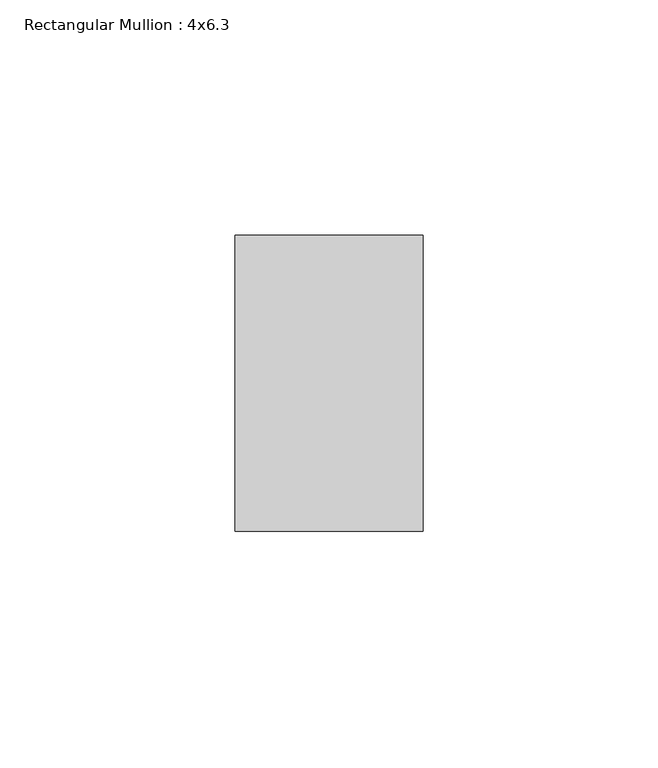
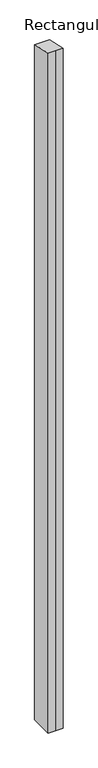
"""IFC4 building model written with IfcOpenShell, lengths in millimetres: member geometry, Rectangular Mullion : 4x6.3."""

from ifc_helpers import new_model, si_unit, origin, place, context, project, spatial, faceted_brep, source, transform, mapped, element, save


def rectangular_mullion_4x6_3_606ac226(model_context):
    return source(origin(), model_context, "Body", "Brep", [
        faceted_brep([(-20.0, 20.0, -1948.525656), (-20.0, 83.0, -1948.525656), (20.0, 83.0, -1948.525656), (20.0, 20.0, -1948.525656), (0.0, 20.0, -1948.525656), (0.0, 20.0, -4.3995804), (-20.0, 20.0, -4.3995804), (20.0, 20.0, -4.3995804), (20.0, 83.0, -18.2582585), (-20.0, 83.0, -18.2582585)], [[[0, 1, 2, 3, 4]], [[5, 6, 0, 4]], [[7, 5, 4, 3]], [[8, 7, 3, 2]], [[9, 8, 2, 1]], [[6, 9, 1, 0]], [[6, 5, 7, 8, 9]]]),
    ])


if __name__ == "__main__":
    model = new_model("IFC4")
    model_context = context("Model", 3, world=origin())
    ifc_project = project(units=[si_unit("LENGTHUNIT", "METRE", prefix="MILLI")], contexts=[model_context])
    site = spatial("IfcSite", under=ifc_project)
    building = spatial("IfcBuilding", under=site)
    placement = place(None, origin())
    rectangular_mullion_4x6_3_shape = rectangular_mullion_4x6_3_606ac226(model_context)
    element("IfcMember", 1, ObjectType="Rectangular Mullion : 4x6.3", at=placement, inside=building, context=model_context, shape_type="MappedRepresentation", body=[
        mapped(rectangular_mullion_4x6_3_shape, transform((0.0, 0.0, 0.0), x_axis=(1.0, 0.0, 0.0), y_axis=(0.0, 1.0, 0.0), z_axis=(0.0, 0.0, 1.0))),
    ])
    save(model, "model.ifc")
